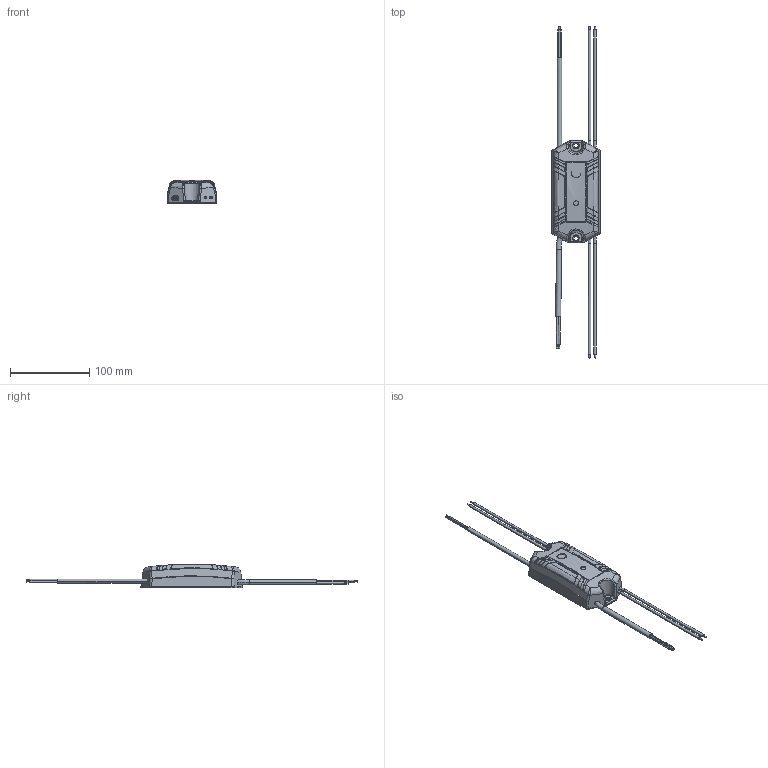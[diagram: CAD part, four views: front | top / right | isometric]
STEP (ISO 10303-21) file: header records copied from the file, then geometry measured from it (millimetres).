
FILE_DESCRIPTION(('CATIA V5 STEP Exchange','CAx-IF Rec.Pracs.--- Model Styling and Organization---1.5--- 2016-08-15','CAx-IF Rec.Pracs.---Supplemental Geometry---1.0---2011-11-01','CAx-IF Rec.Pracs.---Representation and Presentation of Product Manufacturing Information (PMI)---4.0---2014-10-13','CAx-IF Rec.Pracs.--- Composite Materials ---3.4---2017-06-13','CAx-IF Rec.Pracs.---Tessellated 3D Geometry---1.0---2015-12-17'),'2;1');
FILE_NAME('C:\Users\wallra4\OneDrive - FORVIA\Documents\raymonds documents\customer ddx\285.814-00_SMART LIGHTING CONTROLLER\10004060761_D10_001_SIM_SMART_LIGHTING_CONTROLLER.stp','2026-10-05T22:04:16+00:00',('none'),('none'),'CATIA Version 5-6 Release 2022 SP3 HF41','CATIA V5 STEP AP242 v2','none');
FILE_SCHEMA(('AP242_MANAGED_MODEL_BASED_3D_ENGINEERING_MIM_LF {1 0 10303 442 3 1 4}'));
Length unit declared in the file: millimetre
Products named in the file (1): 10004060761_D10_001
Bounding box: 62.6 x 420 x 30 mm (x, y, z)
Volume: 199116.3 mm3; surface area: 40181.9 mm2
Topology: 8 solids, 8 shells, 1199 faces, 3034 edges, 1871 vertices
Faces by surface type: bspline 385, plane 306, cylinder 243, extrusion 184, sphere 37, cone 23, torus 21
Entity records: 55723 total; most frequent: CARTESIAN_POINT 32609, ORIENTED_EDGE 6002, EDGE_CURVE 3001, DIRECTION 2453, VERTEX_POINT 1871, B_SPLINE_CURVE_WITH_KNOTS 1601, EDGE_LOOP 1258, ADVANCED_FACE 1199
